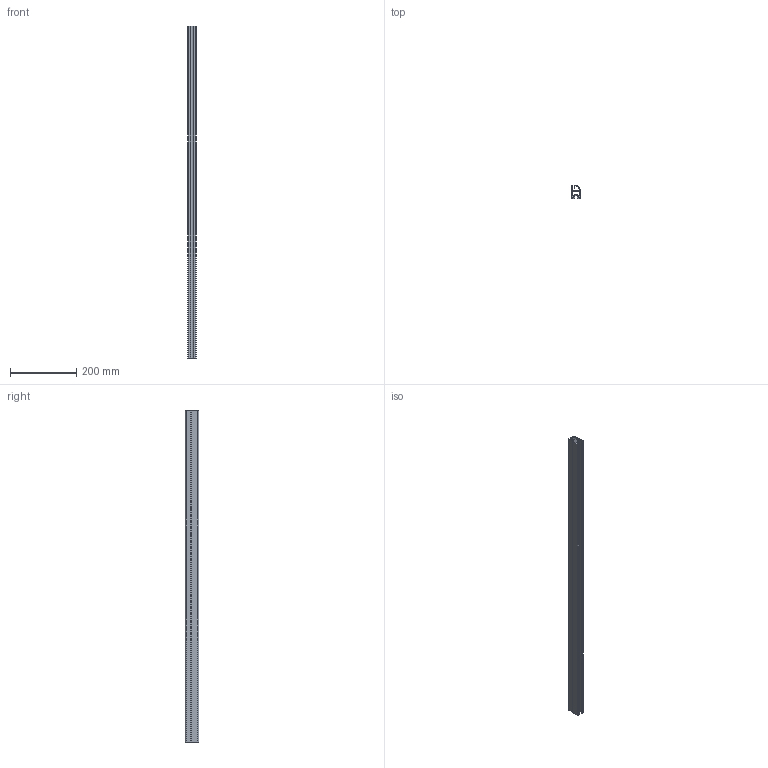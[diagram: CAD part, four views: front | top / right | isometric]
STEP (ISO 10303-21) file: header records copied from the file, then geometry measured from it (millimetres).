
FILE_DESCRIPTION (( 'STEP AP214' ), '1' );
FILE_NAME ('A40822.step', '2024-12-03T16:13:40', ( '' ), ( '' ), 'SwSTEP 2.0', 'SolidWorks 2023', '' );
FILE_SCHEMA (( 'AUTOMOTIVE_DESIGN' ));
Length unit declared in the file: millimetre
Products named in the file (1): A40822
Bounding box: 25 x 40 x 1000 mm (x, y, z)
Volume: 299234.7 mm3; surface area: 301532.1 mm2
Topology: 1 solids, 1 shells, 56 faces, 162 edges, 108 vertices
Faces by surface type: plane 30, cylinder 26
Entity records: 1885 total; most frequent: DIRECTION 328, CARTESIAN_POINT 327, ORIENTED_EDGE 324, EDGE_CURVE 162, LINE 110, VECTOR 110, AXIS2_PLACEMENT_3D 109, VERTEX_POINT 108
